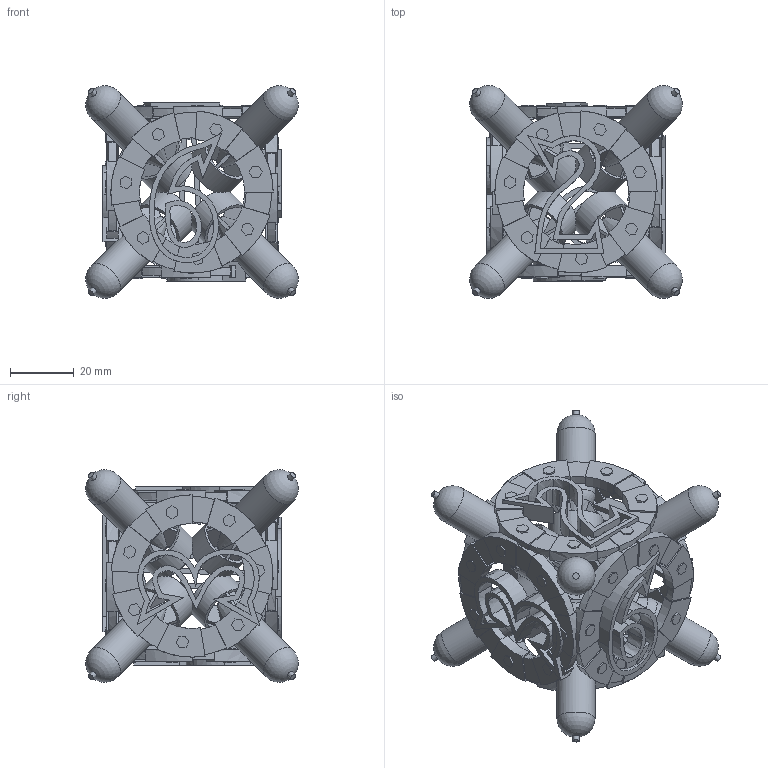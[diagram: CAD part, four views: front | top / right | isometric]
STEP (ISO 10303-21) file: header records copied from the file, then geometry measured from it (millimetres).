
FILE_DESCRIPTION(('Open CASCADE Model'),'2;1');
FILE_NAME('Open CASCADE Shape Model','2022-03-12T13:55:38',('Author'),( 'Open CASCADE'),'Open CASCADE STEP processor 7.4','Open CASCADE 7.4' ,'Unknown');
FILE_SCHEMA(('AUTOMOTIVE_DESIGN { 1 0 10303 214 1 1 1 1 }'));
Length unit declared in the file: millimetre
Products named in the file (1): Open CASCADE STEP translator 7.4 6
Bounding box: 66.76 x 66.79 x 66.76 mm (x, y, z)
Volume: 60881.3 mm3; surface area: 49209.7 mm2
Topology: 1 solids, 1 shells, 1584 faces, 4879 edges, 3232 vertices
Faces by surface type: plane 1195, cylinder 218, extrusion 139, sphere 24, cone 8
Full cylindrical faces by diameter (mm): 2 x8, 12 x8, 15 x8, 17 x8
Entity records: 126948 total; most frequent: CARTESIAN_POINT 32737, DIRECTION 16549, VECTOR 10801, LINE 10662, ORIENTED_EDGE 9742, PCURVE 9742, DEFINITIONAL_REPRESENTATION 9742, EDGE_CURVE 4871
